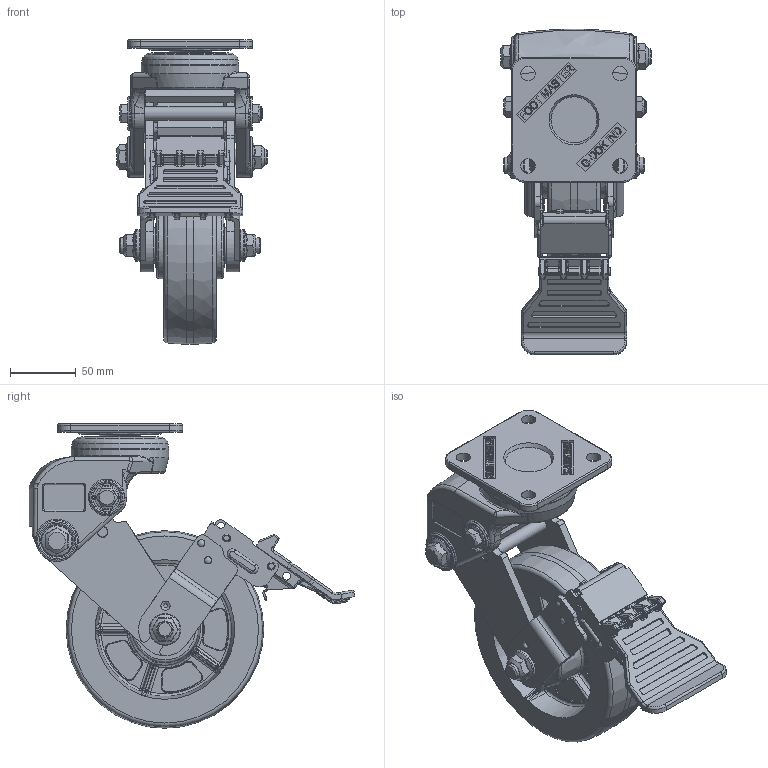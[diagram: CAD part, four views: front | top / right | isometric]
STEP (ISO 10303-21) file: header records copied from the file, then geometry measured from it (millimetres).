
FILE_DESCRIPTION((''),'2;1');
FILE_NAME('C:\Documents and Settings\Administrator\바탕 화면\3D STEP\GDS-SERIES\GDS-150\GDS-150B-SF.stp','2010-12-27T13:52:21',('Administrator'),(''),'Autodesk Inventor 2009','Autodesk Inventor 2009','');
FILE_SCHEMA(('AUTOMOTIVE_DESIGN { 1 0 10303 214 1 1 1 1 }'));
Length unit declared in the file: millimetre
Products named in the file (1): GDS-150B-SF
Bounding box: 114.5 x 247.25 x 231.21 mm (x, y, z)
Volume: 1068323.6 mm3; surface area: 268094.9 mm2
Topology: 6 solids, 6 shells, 3392 faces, 8971 edges, 5621 vertices
Faces by surface type: plane 1829, cylinder 717, bspline 520, torus 168, cone 104, sphere 54
Full cylindrical faces by diameter (mm): 3 x3, 4 x4, 4.2 x6, 4.8 x2, 6 x2, 7.8 x2, 8.2 x2, 10 x4, 11 x4, 12 x6, 12.2 x4, 13.4 x2, 18 x1, 18.6 x2, 20 x2, 21.667 x4, 24 x4, 26 x2, 27 x4, 28.333 x4, 30 x2, 30.6 x1, 31 x2, 35 x2, 35.02 x2, 39 x1, 41.54 x1, 42.34 x1, 74 x1, 150 x1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
Entity records: 143687 total; most frequent: CARTESIAN_POINT 62463, ORIENTED_EDGE 17366, DIRECTION 16051, EDGE_CURVE 8683, VERTEX_POINT 5578, VECTOR 5407, LINE 5407, AXIS2_PLACEMENT_3D 5322
